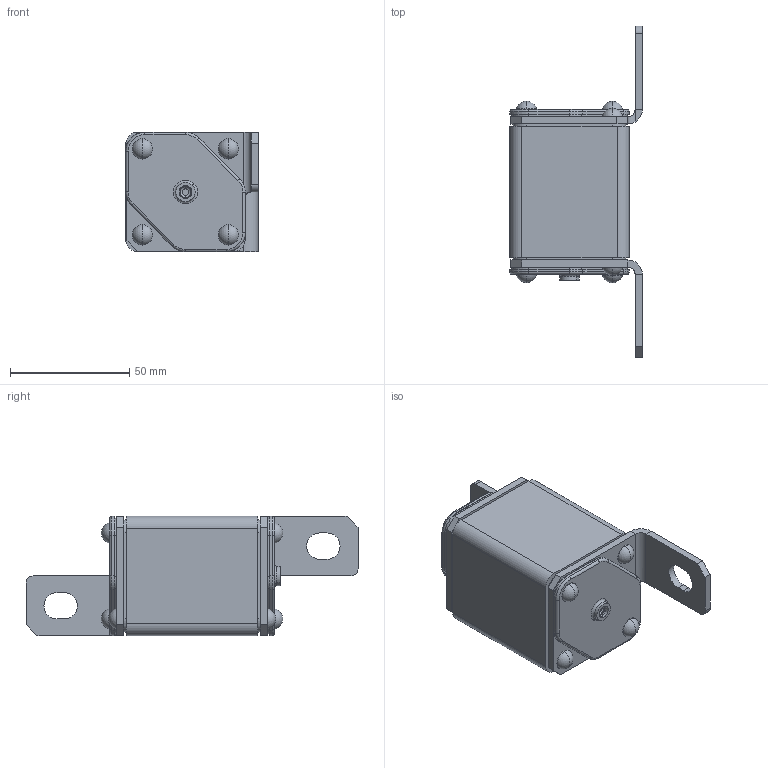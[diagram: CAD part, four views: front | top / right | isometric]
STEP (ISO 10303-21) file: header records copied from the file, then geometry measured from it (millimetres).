
FILE_DESCRIPTION (( 'STEP AP214' ), '1' );
FILE_NAME ('砎槼隰譇膻蠈錪 珫57-34370-XXXA-XXXX-忡曖.STEP', '2023-05-11T11:36:18', ( '' ), ( '' ), 'SwSTEP 2.0', 'SolidWorks 2018', '' );
FILE_SCHEMA (( 'AUTOMOTIVE_DESIGN' ));
Length unit declared in the file: millimetre
Products named in the file (1): 砎槼隰譇膻蠈錪 珫57-34370-XXXA-XXXX-忡曖
Bounding box: 55.5 x 139 x 50.04 mm (x, y, z)
Volume: 168023.3 mm3; surface area: 31067.1 mm2
Topology: 1 solids, 15 shells, 383 faces, 892 edges, 562 vertices
Faces by surface type: cylinder 150, plane 143, torus 40, cone 34, sphere 16
Entity records: 15339 total; most frequent: DIRECTION 2118, CARTESIAN_POINT 1922, ORIENTED_EDGE 1784, EDGE_CURVE 892, AXIS2_PLACEMENT_3D 846, VERTEX_POINT 562, CIRCLE 462, LINE 426
